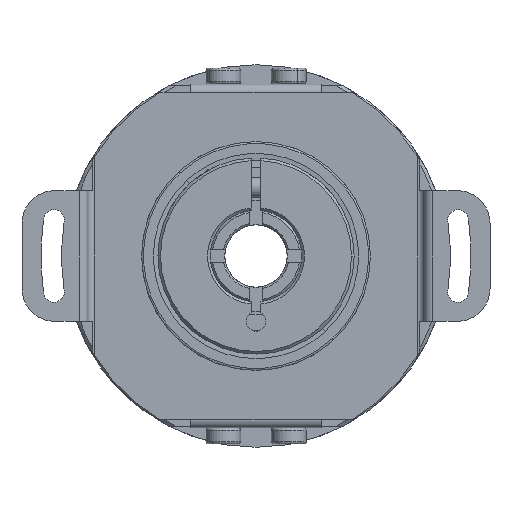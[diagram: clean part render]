
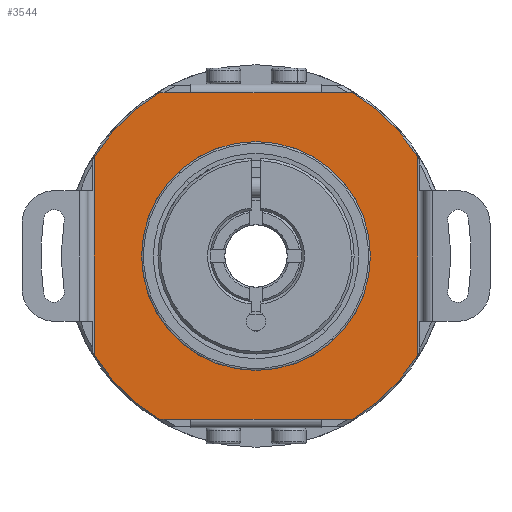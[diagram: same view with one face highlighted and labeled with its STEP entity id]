
A CAD part, front view. The second image highlights one B-rep face of the part: STEP entity #3544.
In plain terms, the highlighted planar face has unit normal (0, -1, 0).
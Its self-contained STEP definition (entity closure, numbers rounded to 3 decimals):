
#98 = CARTESIAN_POINT ( 'NONE',  ( 0., -4.194, 0. ) ) ;
#171 = LINE ( 'NONE', #18199, #22394 ) ;
#604 = CIRCLE ( 'NONE', #7994, 29. ) ;
#673 = CIRCLE ( 'NONE', #28552, 29. ) ;
#683 = VERTEX_POINT ( 'NONE', #25219 ) ;
#952 = AXIS2_PLACEMENT_3D ( 'NONE', #32791, #12646, #9546 ) ;
#2517 = VERTEX_POINT ( 'NONE', #29815 ) ;
#2819 = VERTEX_POINT ( 'NONE', #20417 ) ;
#3061 = ORIENTED_EDGE ( 'NONE', *, *, #26522, .F. ) ;
#3077 = EDGE_CURVE ( 'NONE', #14064, #22571, #604, .T. ) ;
#3544 = ADVANCED_FACE ( 'NONE', ( #10507, #9545 ), #29977, .T. ) ;
#4072 = EDGE_CURVE ( 'NONE', #32765, #14064, #22646, .T. ) ;
#4110 = EDGE_CURVE ( 'NONE', #12041, #2517, #32630, .T. ) ;
#4343 = CARTESIAN_POINT ( 'NONE',  ( 0., -4.194, 0. ) ) ;
#7035 = LINE ( 'NONE', #8687, #17043 ) ;
#7143 = CARTESIAN_POINT ( 'NONE',  ( 24.7, -4.194, -35.2 ) ) ;
#7195 = EDGE_CURVE ( 'NONE', #31247, #27039, #673, .T. ) ;
#7800 = CARTESIAN_POINT ( 'NONE',  ( -10., -4.194, 25. ) ) ;
#7994 = AXIS2_PLACEMENT_3D ( 'NONE', #4343, #21994, #24921 ) ;
#8091 = DIRECTION ( 'NONE',  ( 1., 0., 0. ) ) ;
#8100 = LINE ( 'NONE', #37349, #19971 ) ;
#8180 = EDGE_CURVE ( 'NONE', #32765, #26946, #8544, .T. ) ;
#8434 = DIRECTION ( 'NONE',  ( -1., 0., 0. ) ) ;
#8544 = CIRCLE ( 'NONE', #18151, 29. ) ;
#8637 = DIRECTION ( 'NONE',  ( 1., 0., 0. ) ) ;
#8687 = CARTESIAN_POINT ( 'NONE',  ( -5., -4.194, 25. ) ) ;
#8950 = LINE ( 'NONE', #26161, #34829 ) ;
#8985 = ORIENTED_EDGE ( 'NONE', *, *, #35881, .F. ) ;
#9192 = VERTEX_POINT ( 'NONE', #27217 ) ;
#9545 = FACE_BOUND ( 'NONE', #31115, .T. ) ;
#9546 = DIRECTION ( 'NONE',  ( 0., 0., -1. ) ) ;
#9572 = CARTESIAN_POINT ( 'NONE',  ( -24.7, -4.194, -15.196 ) ) ;
#9619 = CARTESIAN_POINT ( 'NONE',  ( -5., -4.194, -35.2 ) ) ;
#10186 = ORIENTED_EDGE ( 'NONE', *, *, #8180, .T. ) ;
#10507 = FACE_OUTER_BOUND ( 'NONE', #13695, .T. ) ;
#11484 = AXIS2_PLACEMENT_3D ( 'NONE', #14536, #11900, #23554 ) ;
#11868 = VERTEX_POINT ( 'NONE', #13803 ) ;
#11900 = DIRECTION ( 'NONE',  ( 0., -1., 0. ) ) ;
#12041 = VERTEX_POINT ( 'NONE', #35077 ) ;
#12646 = DIRECTION ( 'NONE',  ( 0., 1., 0. ) ) ;
#13387 = ORIENTED_EDGE ( 'NONE', *, *, #25924, .T. ) ;
#13695 = EDGE_LOOP ( 'NONE', ( #15904, #10186, #28775, #8985, #23995, #34085, #16560, #22089, #3061, #13387, #26560, #21988 ) ) ;
#13803 = CARTESIAN_POINT ( 'NONE',  ( 14.697, -4.194, -25. ) ) ;
#14064 = VERTEX_POINT ( 'NONE', #34594 ) ;
#14448 = EDGE_CURVE ( 'NONE', #11868, #29191, #17613, .T. ) ;
#14523 = EDGE_CURVE ( 'NONE', #2517, #12041, #15765, .T. ) ;
#14536 = CARTESIAN_POINT ( 'NONE',  ( 0., -4.194, 0. ) ) ;
#14544 = DIRECTION ( 'NONE',  ( -1., 0., 0. ) ) ;
#15089 = DIRECTION ( 'NONE',  ( 0., -1., 0. ) ) ;
#15316 = DIRECTION ( 'NONE',  ( -1., 0., 0. ) ) ;
#15568 = CARTESIAN_POINT ( 'NONE',  ( -5., -4.194, -25. ) ) ;
#15765 = CIRCLE ( 'NONE', #31335, 17.5 ) ;
#15888 = VECTOR ( 'NONE', #18607, 1000. ) ;
#15904 = ORIENTED_EDGE ( 'NONE', *, *, #4072, .F. ) ;
#16560 = ORIENTED_EDGE ( 'NONE', *, *, #37636, .T. ) ;
#16733 = VECTOR ( 'NONE', #26715, 1000. ) ;
#17043 = VECTOR ( 'NONE', #14544, 1000. ) ;
#17537 = AXIS2_PLACEMENT_3D ( 'NONE', #9619, #35638, #24243 ) ;
#17613 = LINE ( 'NONE', #35624, #31200 ) ;
#17794 = DIRECTION ( 'NONE',  ( -1., 0., 0. ) ) ;
#18151 = AXIS2_PLACEMENT_3D ( 'NONE', #98, #31917, #31795 ) ;
#18199 = CARTESIAN_POINT ( 'NONE',  ( 25., -4.194, 25. ) ) ;
#18607 = DIRECTION ( 'NONE',  ( 0., 0., 1. ) ) ;
#18807 = ORIENTED_EDGE ( 'NONE', *, *, #14523, .F. ) ;
#19971 = VECTOR ( 'NONE', #8434, 1000. ) ;
#20417 = CARTESIAN_POINT ( 'NONE',  ( -10., -4.194, -25. ) ) ;
#20465 = CARTESIAN_POINT ( 'NONE',  ( 14.697, -4.194, 25. ) ) ;
#20832 = LINE ( 'NONE', #15568, #35309 ) ;
#21056 = CIRCLE ( 'NONE', #952, 29. ) ;
#21107 = ORIENTED_EDGE ( 'NONE', *, *, #4110, .F. ) ;
#21988 = ORIENTED_EDGE ( 'NONE', *, *, #3077, .F. ) ;
#21994 = DIRECTION ( 'NONE',  ( 0., 1., 0. ) ) ;
#22089 = ORIENTED_EDGE ( 'NONE', *, *, #7195, .T. ) ;
#22394 = VECTOR ( 'NONE', #8637, 1000. ) ;
#22461 = CARTESIAN_POINT ( 'NONE',  ( -14.697, -4.194, -25. ) ) ;
#22520 = EDGE_CURVE ( 'NONE', #2819, #26946, #8100, .T. ) ;
#22571 = VERTEX_POINT ( 'NONE', #37494 ) ;
#22646 = LINE ( 'NONE', #34940, #16733 ) ;
#22876 = CARTESIAN_POINT ( 'NONE',  ( 10., -4.194, -25. ) ) ;
#23554 = DIRECTION ( 'NONE',  ( 0., 0., -1. ) ) ;
#23995 = ORIENTED_EDGE ( 'NONE', *, *, #14448, .F. ) ;
#24243 = DIRECTION ( 'NONE',  ( 0., 0., -1. ) ) ;
#24921 = DIRECTION ( 'NONE',  ( 0., 0., 1. ) ) ;
#25219 = CARTESIAN_POINT ( 'NONE',  ( 24.7, -4.194, -15.196 ) ) ;
#25924 = EDGE_CURVE ( 'NONE', #9192, #31943, #7035, .T. ) ;
#26161 = CARTESIAN_POINT ( 'NONE',  ( -10., -4.194, 25. ) ) ;
#26378 = DIRECTION ( 'NONE',  ( 0., 0., -1. ) ) ;
#26522 = EDGE_CURVE ( 'NONE', #9192, #27039, #171, .T. ) ;
#26560 = ORIENTED_EDGE ( 'NONE', *, *, #34287, .F. ) ;
#26715 = DIRECTION ( 'NONE',  ( 0., 0., 1. ) ) ;
#26946 = VERTEX_POINT ( 'NONE', #22461 ) ;
#27039 = VERTEX_POINT ( 'NONE', #20465 ) ;
#27217 = CARTESIAN_POINT ( 'NONE',  ( 10., -4.194, 25. ) ) ;
#28552 = AXIS2_PLACEMENT_3D ( 'NONE', #36762, #33973, #8091 ) ;
#28645 = LINE ( 'NONE', #7143, #15888 ) ;
#28775 = ORIENTED_EDGE ( 'NONE', *, *, #22520, .F. ) ;
#29191 = VERTEX_POINT ( 'NONE', #22876 ) ;
#29815 = CARTESIAN_POINT ( 'NONE',  ( 0., -4.194, -17.5 ) ) ;
#29977 = PLANE ( 'NONE',  #17537 ) ;
#30210 = CARTESIAN_POINT ( 'NONE',  ( 24.7, -4.194, 15.196 ) ) ;
#30621 = EDGE_CURVE ( 'NONE', #683, #11868, #21056, .T. ) ;
#31115 = EDGE_LOOP ( 'NONE', ( #18807, #21107 ) ) ;
#31200 = VECTOR ( 'NONE', #17794, 1000. ) ;
#31247 = VERTEX_POINT ( 'NONE', #30210 ) ;
#31335 = AXIS2_PLACEMENT_3D ( 'NONE', #32493, #15089, #26378 ) ;
#31795 = DIRECTION ( 'NONE',  ( 0., 0., -1. ) ) ;
#31917 = DIRECTION ( 'NONE',  ( 0., -1., 0. ) ) ;
#31943 = VERTEX_POINT ( 'NONE', #7800 ) ;
#31997 = DIRECTION ( 'NONE',  ( 1., 0., 0. ) ) ;
#32493 = CARTESIAN_POINT ( 'NONE',  ( 0., -4.194, 0. ) ) ;
#32630 = CIRCLE ( 'NONE', #11484, 17.5 ) ;
#32765 = VERTEX_POINT ( 'NONE', #9572 ) ;
#32791 = CARTESIAN_POINT ( 'NONE',  ( 0., -4.194, 0. ) ) ;
#33973 = DIRECTION ( 'NONE',  ( 0., -1., 0. ) ) ;
#34085 = ORIENTED_EDGE ( 'NONE', *, *, #30621, .F. ) ;
#34287 = EDGE_CURVE ( 'NONE', #22571, #31943, #8950, .T. ) ;
#34594 = CARTESIAN_POINT ( 'NONE',  ( -24.7, -4.194, 15.196 ) ) ;
#34829 = VECTOR ( 'NONE', #31997, 1000. ) ;
#34940 = CARTESIAN_POINT ( 'NONE',  ( -24.7, -4.194, -35.2 ) ) ;
#35077 = CARTESIAN_POINT ( 'NONE',  ( 0., -4.194, 17.5 ) ) ;
#35309 = VECTOR ( 'NONE', #15316, 1000. ) ;
#35624 = CARTESIAN_POINT ( 'NONE',  ( 10., -4.194, -25. ) ) ;
#35638 = DIRECTION ( 'NONE',  ( 0., -1., 0. ) ) ;
#35881 = EDGE_CURVE ( 'NONE', #29191, #2819, #20832, .T. ) ;
#36762 = CARTESIAN_POINT ( 'NONE',  ( 0., -4.194, 0. ) ) ;
#37349 = CARTESIAN_POINT ( 'NONE',  ( -25., -4.194, -25. ) ) ;
#37494 = CARTESIAN_POINT ( 'NONE',  ( -14.697, -4.194, 25. ) ) ;
#37636 = EDGE_CURVE ( 'NONE', #683, #31247, #28645, .T. ) ;
